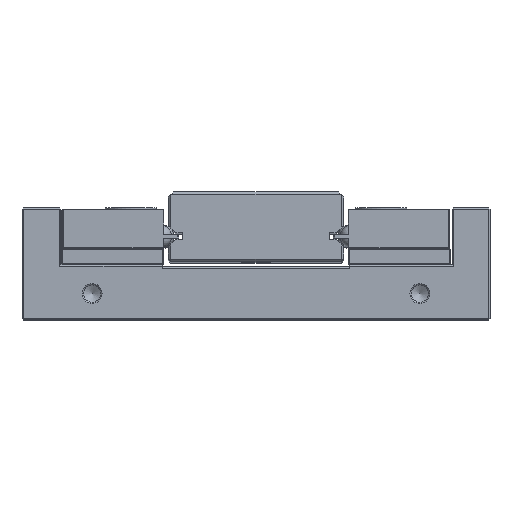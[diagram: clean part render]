
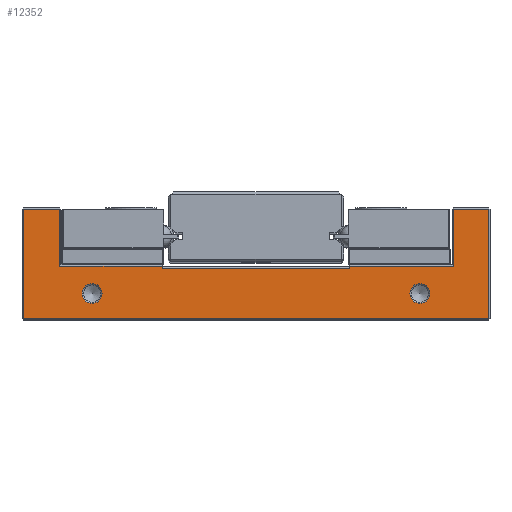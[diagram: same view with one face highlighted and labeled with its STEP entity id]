
A CAD part, top view. The second image highlights one B-rep face of the part: STEP entity #12352.
In plain terms, the highlighted planar face has unit normal (0, 0, 1).
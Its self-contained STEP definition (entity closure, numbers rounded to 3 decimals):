
#426=FACE_BOUND('',#2223,.T.);
#427=FACE_BOUND('',#2224,.T.);
#843=PLANE('',#13441);
#1457=FACE_OUTER_BOUND('',#2222,.T.);
#2222=EDGE_LOOP('',(#10235,#10236,#10237,#10238,#10239,#10240,#10241,#10242,
#10243,#10244,#10245,#10246));
#2223=EDGE_LOOP('',(#10247));
#2224=EDGE_LOOP('',(#10248));
#3202=LINE('',#20738,#4233);
#3240=LINE('',#20857,#4271);
#3241=LINE('',#20860,#4272);
#3243=LINE('',#20864,#4274);
#3244=LINE('',#20866,#4275);
#3245=LINE('',#20868,#4276);
#3246=LINE('',#20870,#4277);
#3247=LINE('',#20872,#4278);
#3248=LINE('',#20874,#4279);
#3249=LINE('',#20876,#4280);
#3250=LINE('',#20877,#4281);
#3251=LINE('',#20878,#4282);
#4233=VECTOR('',#16027,10.);
#4271=VECTOR('',#16157,10.);
#4272=VECTOR('',#16160,10.);
#4274=VECTOR('',#16164,10.);
#4275=VECTOR('',#16165,10.);
#4276=VECTOR('',#16166,10.);
#4277=VECTOR('',#16167,10.);
#4278=VECTOR('',#16168,10.);
#4279=VECTOR('',#16169,10.);
#4280=VECTOR('',#16170,10.);
#4281=VECTOR('',#16171,10.);
#4282=VECTOR('',#16172,10.);
#4813=CIRCLE('',#13442,3.824);
#4814=CIRCLE('',#13443,3.824);
#5735=VERTEX_POINT('',#20735);
#5736=VERTEX_POINT('',#20737);
#5770=VERTEX_POINT('',#20853);
#5771=VERTEX_POINT('',#20855);
#5772=VERTEX_POINT('',#20859);
#5773=VERTEX_POINT('',#20863);
#5774=VERTEX_POINT('',#20865);
#5775=VERTEX_POINT('',#20867);
#5776=VERTEX_POINT('',#20869);
#5777=VERTEX_POINT('',#20871);
#5778=VERTEX_POINT('',#20873);
#5779=VERTEX_POINT('',#20875);
#5780=VERTEX_POINT('',#20879);
#5781=VERTEX_POINT('',#20881);
#7260=EDGE_CURVE('',#5736,#5735,#3202,.T.);
#7320=EDGE_CURVE('',#5771,#5770,#3240,.T.);
#7321=EDGE_CURVE('',#5772,#5770,#3241,.T.);
#7323=EDGE_CURVE('',#5773,#5771,#3243,.T.);
#7324=EDGE_CURVE('',#5774,#5773,#3244,.T.);
#7325=EDGE_CURVE('',#5775,#5774,#3245,.T.);
#7326=EDGE_CURVE('',#5776,#5775,#3246,.T.);
#7327=EDGE_CURVE('',#5777,#5776,#3247,.T.);
#7328=EDGE_CURVE('',#5778,#5777,#3248,.T.);
#7329=EDGE_CURVE('',#5779,#5778,#3249,.T.);
#7330=EDGE_CURVE('',#5736,#5779,#3250,.T.);
#7331=EDGE_CURVE('',#5772,#5735,#3251,.T.);
#7332=EDGE_CURVE('',#5780,#5780,#4813,.T.);
#7333=EDGE_CURVE('',#5781,#5781,#4814,.T.);
#10235=ORIENTED_EDGE('',*,*,#7320,.F.);
#10236=ORIENTED_EDGE('',*,*,#7323,.F.);
#10237=ORIENTED_EDGE('',*,*,#7324,.F.);
#10238=ORIENTED_EDGE('',*,*,#7325,.F.);
#10239=ORIENTED_EDGE('',*,*,#7326,.F.);
#10240=ORIENTED_EDGE('',*,*,#7327,.F.);
#10241=ORIENTED_EDGE('',*,*,#7328,.F.);
#10242=ORIENTED_EDGE('',*,*,#7329,.F.);
#10243=ORIENTED_EDGE('',*,*,#7330,.F.);
#10244=ORIENTED_EDGE('',*,*,#7260,.T.);
#10245=ORIENTED_EDGE('',*,*,#7331,.F.);
#10246=ORIENTED_EDGE('',*,*,#7321,.T.);
#10247=ORIENTED_EDGE('',*,*,#7332,.F.);
#10248=ORIENTED_EDGE('',*,*,#7333,.F.);
#12352=ADVANCED_FACE('',(#1457,#426,#427),#843,.T.);
#13441=AXIS2_PLACEMENT_3D('',#20862,#16162,#16163);
#13442=AXIS2_PLACEMENT_3D('',#20880,#16173,#16174);
#13443=AXIS2_PLACEMENT_3D('',#20882,#16175,#16176);
#16027=DIRECTION('',(0.,-1.,0.));
#16157=DIRECTION('',(1.,0.,0.));
#16160=DIRECTION('',(0.,1.,0.));
#16162=DIRECTION('center_axis',(0.,0.,
1.));
#16163=DIRECTION('ref_axis',(1.,0.,0.));
#16164=DIRECTION('',(0.,-1.,0.));
#16165=DIRECTION('',(1.,0.,0.));
#16166=DIRECTION('',(0.,1.,0.));
#16167=DIRECTION('',(-1.,0.,0.));
#16168=DIRECTION('',(0.,-1.,0.));
#16169=DIRECTION('',(1.,0.,0.));
#16170=DIRECTION('',(0.,1.,0.));
#16171=DIRECTION('',(1.,0.,0.));
#16172=DIRECTION('',(1.,0.,0.));
#16173=DIRECTION('center_axis',(0.,0.,
1.));
#16174=DIRECTION('ref_axis',(-1.,0.,0.));
#16175=DIRECTION('center_axis',(0.,0.,
1.));
#16176=DIRECTION('ref_axis',(-1.,0.,0.));
#20735=CARTESIAN_POINT('',(27.11,-21.38,59.754));
#20737=CARTESIAN_POINT('',(27.11,-20.58,59.754));
#20738=CARTESIAN_POINT('',(27.11,-20.08,59.754));
#20853=CARTESIAN_POINT('',(-44.89,-20.58,59.754));
#20855=CARTESIAN_POINT('',(-84.39,-20.58,59.754));
#20857=CARTESIAN_POINT('',(-26.89,-20.58,59.754));
#20859=CARTESIAN_POINT('',(-44.89,-21.38,59.754));
#20860=CARTESIAN_POINT('',(-44.89,-20.88,59.754));
#20862=CARTESIAN_POINT('Origin',(-8.89,-19.58,59.754));
#20863=CARTESIAN_POINT('',(-84.39,1.42,59.754));
#20864=CARTESIAN_POINT('',(-84.39,-19.83,59.754));
#20865=CARTESIAN_POINT('',(-98.39,1.42,59.754));
#20866=CARTESIAN_POINT('',(-46.39,1.42,59.754));
#20867=CARTESIAN_POINT('',(-98.39,-40.58,59.754));
#20868=CARTESIAN_POINT('',(-98.39,-8.83,59.754));
#20869=CARTESIAN_POINT('',(80.61,-40.58,59.754));
#20870=CARTESIAN_POINT('',(-53.89,-40.58,59.754));
#20871=CARTESIAN_POINT('',(80.61,1.42,59.754));
#20872=CARTESIAN_POINT('',(80.61,-30.33,59.754));
#20873=CARTESIAN_POINT('',(67.11,1.42,59.754));
#20874=CARTESIAN_POINT('',(36.11,1.42,59.754));
#20875=CARTESIAN_POINT('',(67.11,-20.58,59.754));
#20876=CARTESIAN_POINT('',(67.11,-8.83,59.754));
#20877=CARTESIAN_POINT('',(28.86,-20.58,59.754));
#20878=CARTESIAN_POINT('',(9.11,-21.38,59.754));
#20879=CARTESIAN_POINT('',(57.933,-31.08,59.754));
#20880=CARTESIAN_POINT('Origin',(54.11,-31.08,59.754));
#20881=CARTESIAN_POINT('',(-68.067,-31.08,59.754));
#20882=CARTESIAN_POINT('Origin',(-71.89,-31.08,59.754));
